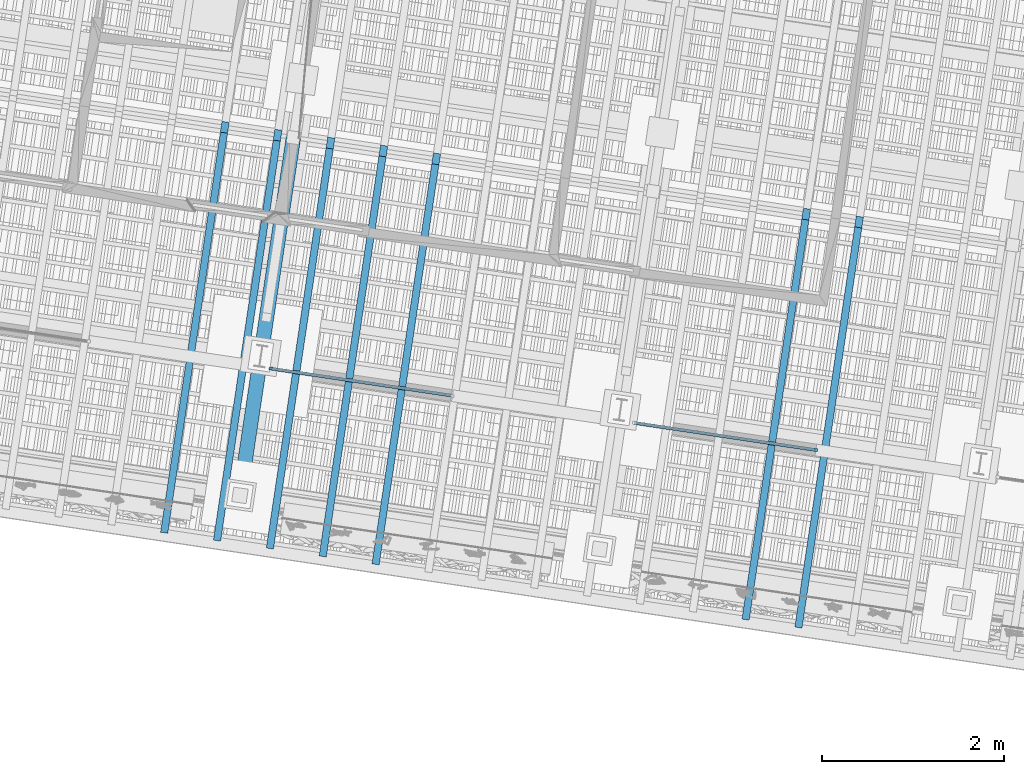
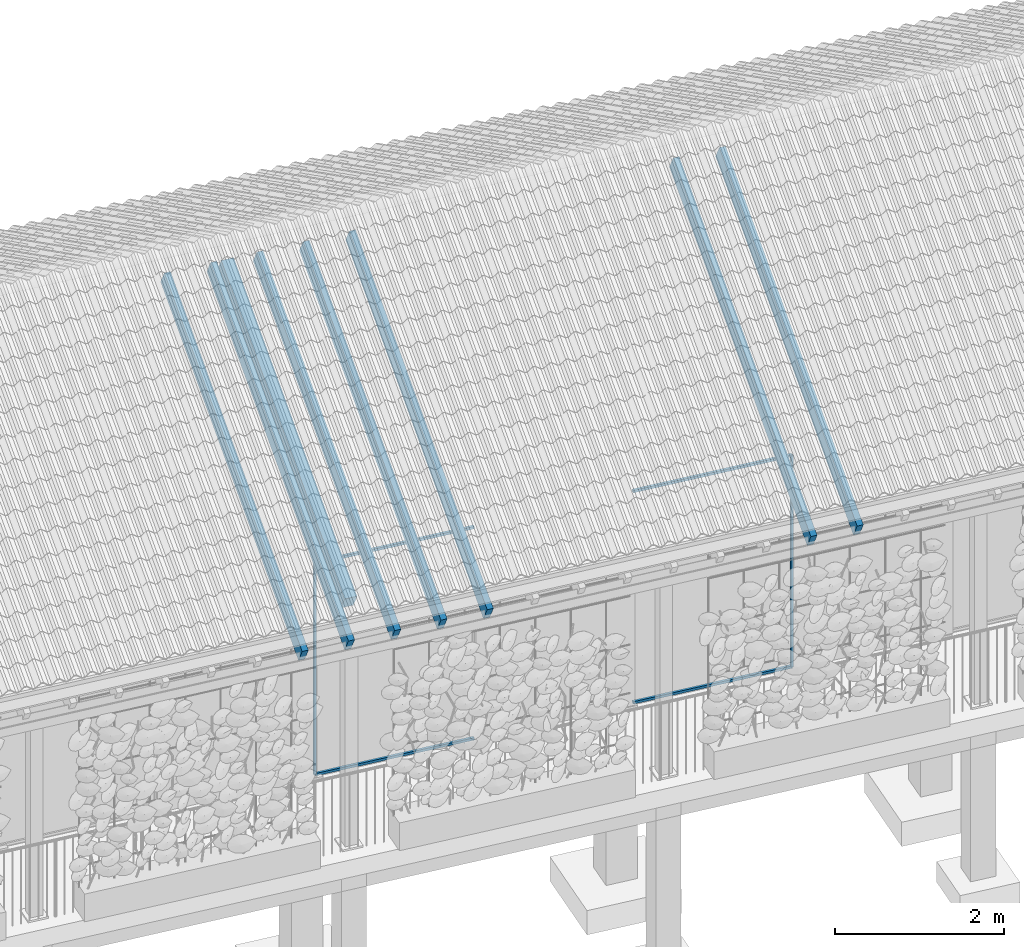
# One storey, part 78 of 131: 14 members, 1 element without a shape of its own.
"""IFC4 building model written with IfcOpenShell, lengths in metres."""

from ifc_helpers import new_model, si_unit, direction, frame, origin_with_axes, place, context, subcontext, project, spatial, rectangle, extrude, material, material_profile, profile_set, profile_usage, type_object, element, aggregate, save


model = new_model("IFC4")

# Units and contexts
model_context = context("Model", 3, precision=1e-05, world=origin_with_axes(), true_north=direction((0.0, 1.0)))
body_context = subcontext(model_context, "Body", "Model", "MODEL_VIEW")
ifc_project = project(units=[si_unit("VOLUMEUNIT", "CUBIC_METRE"), si_unit("LENGTHUNIT", "METRE"), si_unit("AREAUNIT", "SQUARE_METRE")], contexts=[model_context])

# Site, building, storey
site_placement = place(None, origin_with_axes())
site = spatial("IfcSite", under=ifc_project, at=site_placement, Name="Lares · Rua das Mercês · artigo 4771")
building_placement = place(site_placement, frame((15.0, 9.7, 15.8), z_axis=(0.0, 0.0, 1.0), x_axis=(0.989015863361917, -0.147809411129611, 0.0)))
building = spatial("IfcBuilding", under=site, at=building_placement, Name="Casa Sobreposta")
storey_placement = place(building_placement, origin_with_axes())
storey = spatial("IfcBuildingStorey", under=building, at=storey_placement, Name="00 · Habitação e estacionamento", Elevation=15.8)

# Members
ifc_material_1 = material(Name="Aço pintado / Stahl lackiert", Category="steel")
ifc_material_profile_1 = material_profile(ifc_material_1, rectangle(XDim=0.035, YDim=0.035))
ifc_profile_set_1 = profile_set([ifc_material_profile_1], Name="R0.035")
ifc_profile_usage_1 = profile_usage(ifc_profile_set_1)
member_type_1 = type_object("IfcMemberType", Name="R0.035 / steel", PredefinedType="NOTDEFINED", material=ifc_profile_set_1)
member_1_placement = place(storey_placement, frame((12.128, 0.0, 0.0), z_axis=(0.0, 0.0, 1.0), x_axis=(1.0, 0.0, 0.0)))
element("IfcMember", 1, at=member_1_placement, inside=storey, type_object=member_type_1, material=ifc_profile_usage_1, Name="Folha de correr sul 6 · montante", context=body_context, shape_type="SweptSolid", body=[
    extrude(rectangle(XDim=0.035, YDim=0.035), origin_with_axes(), (0.0, 0.0, 1.0), 3.05),
])
ifc_profile_usage_2 = profile_usage(ifc_profile_set_1)
member_2_placement = place(storey_placement, frame((12.128, 0.0, 0.0), z_axis=(1.0, 0.0, 0.0), x_axis=(0.0, -1.0, 0.0)))
element("IfcMember", 2, at=member_2_placement, inside=storey, type_object=member_type_1, material=ifc_profile_usage_2, Name="Folha de correr sul 6 · travessa", context=body_context, shape_type="SweptSolid", body=[
    extrude(rectangle(XDim=0.035, YDim=0.035), origin_with_axes(), (0.0, 0.0, 1.0), 2.02133333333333),
])
ifc_profile_usage_3 = profile_usage(ifc_profile_set_1)
member_3_placement = place(storey_placement, frame((12.128, 0.0, 3.05), z_axis=(1.0, 0.0, 0.0), x_axis=(0.0, -1.0, 0.0)))
element("IfcMember", 3, at=member_3_placement, inside=storey, type_object=member_type_1, material=ifc_profile_usage_3, Name="Folha de correr sul 6 · travessa", context=body_context, shape_type="SweptSolid", body=[
    extrude(rectangle(XDim=0.035, YDim=0.035), origin_with_axes(), (0.0, 0.0, 1.0), 2.02133333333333),
])
ifc_profile_usage_4 = profile_usage(ifc_profile_set_1)
member_4_placement = place(storey_placement, frame((18.192, 0.0, 0.0), z_axis=(0.0, 0.0, 1.0), x_axis=(1.0, 0.0, 0.0)))
element("IfcMember", 4, at=member_4_placement, inside=storey, type_object=member_type_1, material=ifc_profile_usage_4, Name="Folha de correr sul 8 · montante", context=body_context, shape_type="SweptSolid", body=[
    extrude(rectangle(XDim=0.035, YDim=0.035), origin_with_axes(), (0.0, 0.0, 1.0), 3.05),
])
ifc_profile_usage_5 = profile_usage(ifc_profile_set_1)
member_5_placement = place(storey_placement, frame((16.1706666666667, 0.0, 0.0), z_axis=(1.0, 0.0, 0.0), x_axis=(0.0, -1.0, 0.0)))
element("IfcMember", 5, at=member_5_placement, inside=storey, type_object=member_type_1, material=ifc_profile_usage_5, Name="Folha de correr sul 8 · travessa", context=body_context, shape_type="SweptSolid", body=[
    extrude(rectangle(XDim=0.035, YDim=0.035), origin_with_axes(), (0.0, 0.0, 1.0), 2.02133333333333),
])
ifc_profile_usage_6 = profile_usage(ifc_profile_set_1)
member_6_placement = place(storey_placement, frame((16.1706666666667, 0.0, 3.05), z_axis=(1.0, 0.0, 0.0), x_axis=(0.0, -1.0, 0.0)))
element("IfcMember", 6, at=member_6_placement, inside=storey, type_object=member_type_1, material=ifc_profile_usage_6, Name="Folha de correr sul 8 · travessa", context=body_context, shape_type="SweptSolid", body=[
    extrude(rectangle(XDim=0.035, YDim=0.035), origin_with_axes(), (0.0, 0.0, 1.0), 2.02133333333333),
])

# Roof, members
ifc_material_2 = material(Name="Madeira / Bauholz", Category="wood")
roof_placement = place(storey_placement, origin_with_axes())
roof = element("IfcRoof", 7, at=roof_placement, inside=storey, material=ifc_material_2, Name="Cobertura de telha · duas águas 30 graus", PredefinedType="GABLE_ROOF")
ifc_material_profile_2 = material_profile(ifc_material_2, rectangle(XDim=0.16, YDim=0.24))
ifc_profile_set_2 = profile_set([ifc_material_profile_2], Name="TIMBER0.160x0.240")
ifc_profile_usage_7 = profile_usage(ifc_profile_set_2)
member_type_2 = type_object("IfcMemberType", Name="TIMBER0.160x0.240 / timber", PredefinedType="NOTDEFINED", material=ifc_profile_set_2)
member_7_placement = place(roof_placement, frame((12.0, -1.43, 3.44635462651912), z_axis=(0.0, 0.866025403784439, 0.5), x_axis=(1.0, 0.0, 0.0)))
member_7 = element("IfcMember", 8, at=member_7_placement, type_object=member_type_2, material=ifc_profile_usage_7, Name="Tesoura · perna", context=body_context, shape_type="SweptSolid", body=[
    extrude(rectangle(XDim=0.16, YDim=0.24), origin_with_axes(), (0.0, 0.0, 1.0), 4.59570814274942),
])
ifc_material_profile_3 = material_profile(ifc_material_2, rectangle(XDim=0.08, YDim=0.24))
ifc_profile_set_3 = profile_set([ifc_material_profile_3], Name="TIMBER0.080x0.240")
ifc_profile_usage_8 = profile_usage(ifc_profile_set_3)
member_type_3 = type_object("IfcMemberType", Name="TIMBER0.080x0.240 / timber", PredefinedType="NOTDEFINED", material=ifc_profile_set_3)
member_8_placement = place(roof_placement, frame((11.2363636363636, -1.9, 3.181), z_axis=(0.0, 0.866025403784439, 0.5), x_axis=(1.0, 0.0, 0.0)))
member_8 = element("IfcMember", 9, at=member_8_placement, type_object=member_type_3, material=ifc_profile_usage_8, Name="Cobertura · caibro", context=body_context, shape_type="SweptSolid", body=[
    extrude(rectangle(XDim=0.08, YDim=0.24), origin_with_axes(), (0.0, 0.0, 1.0), 5.13841739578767),
])
ifc_profile_usage_9 = profile_usage(ifc_profile_set_3)
member_9_placement = place(roof_placement, frame((11.8242424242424, -1.9, 3.181), z_axis=(0.0, 0.866025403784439, 0.5), x_axis=(1.0, 0.0, 0.0)))
member_9 = element("IfcMember", 10, at=member_9_placement, type_object=member_type_3, material=ifc_profile_usage_9, Name="Cobertura · caibro", context=body_context, shape_type="SweptSolid", body=[
    extrude(rectangle(XDim=0.08, YDim=0.24), origin_with_axes(), (0.0, 0.0, 1.0), 5.13841739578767),
])
ifc_profile_usage_10 = profile_usage(ifc_profile_set_3)
member_10_placement = place(roof_placement, frame((12.4121212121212, -1.9, 3.181), z_axis=(0.0, 0.866025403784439, 0.5), x_axis=(1.0, 0.0, 0.0)))
member_10 = element("IfcMember", 11, at=member_10_placement, type_object=member_type_3, material=ifc_profile_usage_10, Name="Cobertura · caibro", context=body_context, shape_type="SweptSolid", body=[
    extrude(rectangle(XDim=0.08, YDim=0.24), origin_with_axes(), (0.0, 0.0, 1.0), 5.13841739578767),
])
ifc_profile_usage_11 = profile_usage(ifc_profile_set_3)
member_11_placement = place(roof_placement, frame((13.0, -1.9, 3.181), z_axis=(0.0, 0.866025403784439, 0.5), x_axis=(1.0, 0.0, 0.0)))
member_11 = element("IfcMember", 12, at=member_11_placement, type_object=member_type_3, material=ifc_profile_usage_11, Name="Cobertura · caibro", context=body_context, shape_type="SweptSolid", body=[
    extrude(rectangle(XDim=0.08, YDim=0.24), origin_with_axes(), (0.0, 0.0, 1.0), 5.13841739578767),
])
ifc_profile_usage_12 = profile_usage(ifc_profile_set_3)
member_12_placement = place(roof_placement, frame((13.5878787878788, -1.9, 3.181), z_axis=(0.0, 0.866025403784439, 0.5), x_axis=(1.0, 0.0, 0.0)))
member_12 = element("IfcMember", 13, at=member_12_placement, type_object=member_type_3, material=ifc_profile_usage_12, Name="Cobertura · caibro", context=body_context, shape_type="SweptSolid", body=[
    extrude(rectangle(XDim=0.08, YDim=0.24), origin_with_axes(), (0.0, 0.0, 1.0), 5.13841739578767),
])
ifc_profile_usage_13 = profile_usage(ifc_profile_set_3)
member_13_placement = place(roof_placement, frame((17.7030303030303, -1.9, 3.181), z_axis=(0.0, 0.866025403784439, 0.5), x_axis=(1.0, 0.0, 0.0)))
member_13 = element("IfcMember", 14, at=member_13_placement, type_object=member_type_3, material=ifc_profile_usage_13, Name="Cobertura · caibro", context=body_context, shape_type="SweptSolid", body=[
    extrude(rectangle(XDim=0.08, YDim=0.24), origin_with_axes(), (0.0, 0.0, 1.0), 5.13841739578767),
])
ifc_profile_usage_14 = profile_usage(ifc_profile_set_3)
member_14_placement = place(roof_placement, frame((18.2909090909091, -1.9, 3.181), z_axis=(0.0, 0.866025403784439, 0.5), x_axis=(1.0, 0.0, 0.0)))
member_14 = element("IfcMember", 15, at=member_14_placement, type_object=member_type_3, material=ifc_profile_usage_14, Name="Cobertura · caibro", context=body_context, shape_type="SweptSolid", body=[
    extrude(rectangle(XDim=0.08, YDim=0.24), origin_with_axes(), (0.0, 0.0, 1.0), 5.13841739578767),
])
aggregate(roof, [member_7, member_8, member_9, member_10, member_11, member_12, member_13, member_14])

save(model, "model.ifc")
